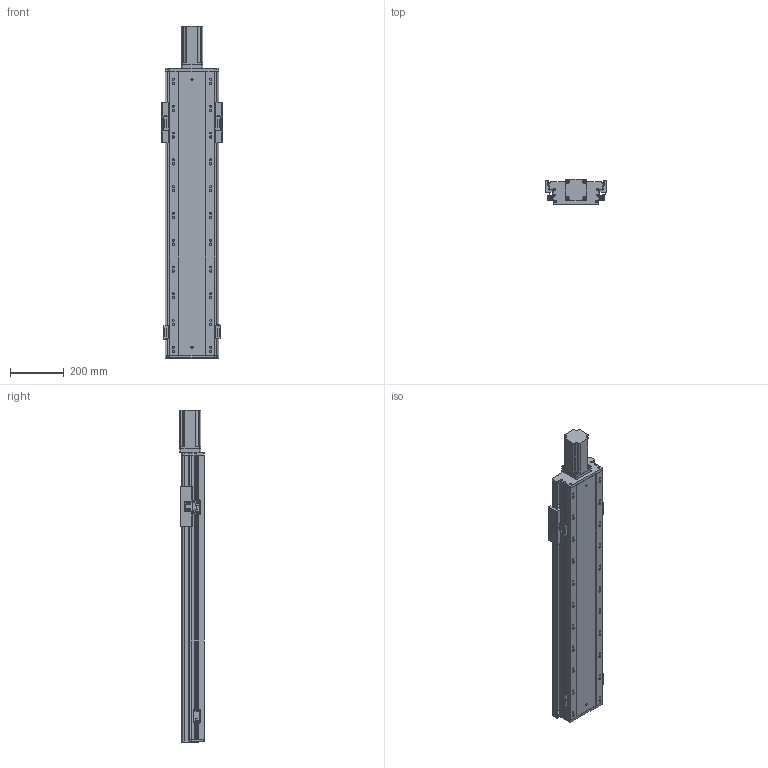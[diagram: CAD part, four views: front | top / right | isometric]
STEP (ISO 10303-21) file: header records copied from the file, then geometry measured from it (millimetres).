
FILE_DESCRIPTION (( 'STEP AP203' ), '1' );
FILE_NAME ('RY170FB-L2510-300-MK.SLDASM_750.step', '2021-02-22T08:56:44', ( '盈信电脑' ), ( '东莞市道滘镇水果街19号' ), 'SwSTEP 2.0', 'SolidWorks 2012', '' );
FILE_SCHEMA (( 'CONFIG_CONTROL_DESIGN' ));
Length unit declared in the file: millimetre
Products named in the file (16): RY170FB-L2510-300-MK.SLDASM_750; RY140-674嫖萇耀輸; RY140FB-674嫖萇覜茼え; RY140FB-覜茼え; 侂狟750W萇儂ㄗ80遺ㄘ; RY140直线电机感应器674光电安装座; 覜茼ん674; 滅袉蝶18-10; 750W萇儂梓袧蛌諉啣; RY170FB-300奻裔_750; RY170FB-铝滑块(25丝杆）; RY170FB-300倰第菁釱-MK_750; RY170FB-ヶ裔啣; 滅袉蝶18-28; RY170FB-綴裔啣
Assembly tree (20 placements, depth 3):
  RY170FB-L2510-300-MK.SLDASM_750
    RY170FB-300倰第菁釱-MK_750
    RY170FB-綴裔啣
    RY170FB-ヶ裔啣
    滅袉蝶18-28
    滅袉蝶18-10
    RY170FB-铝滑块(25丝杆）
    RY170FB-300奻裔_750
    750W萇儂梓袧蛌諉啣
    侂狟750W萇儂ㄗ80遺ㄘ
    RY140-674嫖萇耀輸  x2
      覜茼ん674
      RY140直线电机感应器674光电安装座
    RY140FB-674嫖萇覜茼え
    RY140-674嫖萇耀輸  x2
      覜茼ん674
      RY140直线电机感应器674光电安装座
    RY140FB-覜茼え
Bounding box: 225 x 93.2 x 1239.5 mm (x, y, z)
Volume: 6713359.6 mm3; surface area: 1891446.1 mm2
Topology: 21 solids, 21 shells, 1677 faces, 4869 edges, 3132 vertices
Faces by surface type: cylinder 800, plane 761, cone 116
Entity records: 44361 total; most frequent: CARTESIAN_POINT 9948, ORIENTED_EDGE 6958, DIRECTION 6773, EDGE_CURVE 3479, AXIS2_PLACEMENT_3D 2469, VERTEX_POINT 2286, VECTOR 1835, LINE 1835
